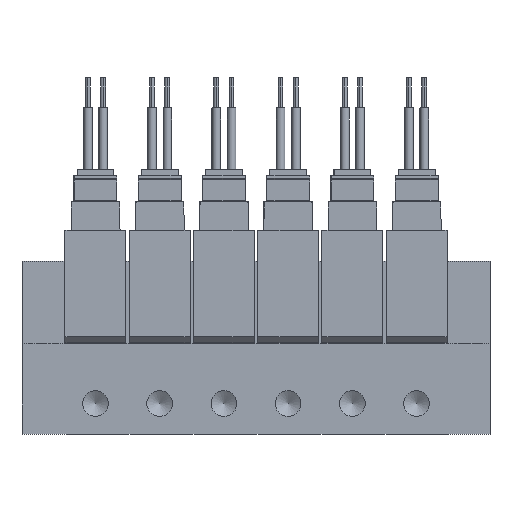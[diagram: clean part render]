
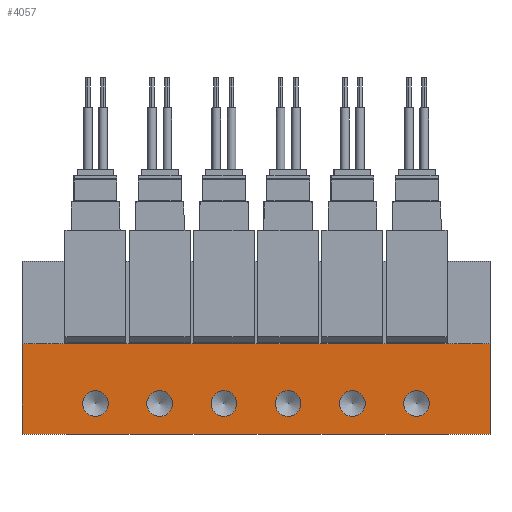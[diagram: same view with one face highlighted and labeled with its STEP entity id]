
A CAD part, front view. The second image highlights one B-rep face of the part: STEP entity #4057.
In plain terms, the highlighted planar face has unit normal (0, -1, 0).
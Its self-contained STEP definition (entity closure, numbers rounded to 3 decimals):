
#4057=ADVANCED_FACE('',(#6612,#6613,#6614,#6615,#6616,#6617,#6618),#6619,.F.);
#6612=FACE_BOUND('',#11838,.T.);
#6613=FACE_BOUND('',#11839,.T.);
#6614=FACE_BOUND('',#11840,.T.);
#6615=FACE_BOUND('',#11841,.T.);
#6616=FACE_BOUND('',#11842,.T.);
#6617=FACE_BOUND('',#11843,.T.);
#6618=FACE_OUTER_BOUND('',#11844,.T.);
#6619=PLANE('',#11845);
#11838=EDGE_LOOP('',(#18467));
#11839=EDGE_LOOP('',(#18468));
#11840=EDGE_LOOP('',(#18469));
#11841=EDGE_LOOP('',(#18470));
#11842=EDGE_LOOP('',(#18471));
#11843=EDGE_LOOP('',(#18472));
#11844=EDGE_LOOP('',(#18473,#18474,#18475,#18476));
#11845=AXIS2_PLACEMENT_3D('',#18477,#18478,#18479);
#18467=ORIENTED_EDGE('',*,*,#38430,.F.);
#18468=ORIENTED_EDGE('',*,*,#38431,.F.);
#18469=ORIENTED_EDGE('',*,*,#38432,.F.);
#18470=ORIENTED_EDGE('',*,*,#38433,.F.);
#18471=ORIENTED_EDGE('',*,*,#38434,.F.);
#18472=ORIENTED_EDGE('',*,*,#38435,.F.);
#18473=ORIENTED_EDGE('',*,*,#38425,.F.);
#18474=ORIENTED_EDGE('',*,*,#38436,.F.);
#18475=ORIENTED_EDGE('',*,*,#38392,.T.);
#18476=ORIENTED_EDGE('',*,*,#38429,.T.);
#18477=CARTESIAN_POINT('',(-76.5,0.,14.8));
#18478=DIRECTION('',(0.0,1.0,0.));
#18479=DIRECTION('',(0.0,0.,1.0));
#38392=EDGE_CURVE('',#44910,#44908,#44911,.T.);
#38425=EDGE_CURVE('',#44969,#44971,#44972,.T.);
#38429=EDGE_CURVE('',#44908,#44971,#44978,.T.);
#38430=EDGE_CURVE('',#44979,#44979,#44980,.T.);
#38431=EDGE_CURVE('',#44981,#44981,#44982,.T.);
#38432=EDGE_CURVE('',#44983,#44983,#44984,.T.);
#38433=EDGE_CURVE('',#44985,#44985,#44986,.T.);
#38434=EDGE_CURVE('',#44987,#44987,#44988,.T.);
#38435=EDGE_CURVE('',#44989,#44989,#44990,.T.);
#38436=EDGE_CURVE('',#44910,#44969,#44991,.T.);
#44908=VERTEX_POINT('',#55894);
#44910=VERTEX_POINT('',#55897);
#44911=LINE('',#55898,#55899);
#44969=VERTEX_POINT('',#55972);
#44971=VERTEX_POINT('',#55975);
#44972=LINE('',#55976,#55977);
#44978=LINE('',#55984,#55985);
#44979=VERTEX_POINT('',#55986);
#44980=CIRCLE('',#55987,2.1);
#44981=VERTEX_POINT('',#55988);
#44982=CIRCLE('',#55989,2.1);
#44983=VERTEX_POINT('',#55990);
#44984=CIRCLE('',#55991,2.1);
#44985=VERTEX_POINT('',#55992);
#44986=CIRCLE('',#55993,2.1);
#44987=VERTEX_POINT('',#55994);
#44988=CIRCLE('',#55995,2.1);
#44989=VERTEX_POINT('',#55996);
#44990=CIRCLE('',#55997,2.1);
#44991=LINE('',#55998,#55999);
#55894=CARTESIAN_POINT('',(-76.5,0.0,0.0));
#55897=CARTESIAN_POINT('',(-76.5,0.,14.8));
#55898=CARTESIAN_POINT('',(-76.5,0.,14.8));
#55899=VECTOR('',#71651,1.0);
#55972=CARTESIAN_POINT('',(0.0,0.,14.8));
#55975=CARTESIAN_POINT('',(0.0,0.0,0.0));
#55976=CARTESIAN_POINT('',(0.0,0.,14.8));
#55977=VECTOR('',#71716,1.0);
#55984=CARTESIAN_POINT('',(-76.5,0.0,0.0));
#55985=VECTOR('',#71724,1.0);
#55986=CARTESIAN_POINT('',(-64.5,0.,2.9));
#55987=AXIS2_PLACEMENT_3D('',#71725,#71726,#71727);
#55988=CARTESIAN_POINT('',(-54.0,0.,2.9));
#55989=AXIS2_PLACEMENT_3D('',#71728,#71729,#71730);
#55990=CARTESIAN_POINT('',(-43.5,0.,2.9));
#55991=AXIS2_PLACEMENT_3D('',#71731,#71732,#71733);
#55992=CARTESIAN_POINT('',(-33.0,0.,2.9));
#55993=AXIS2_PLACEMENT_3D('',#71734,#71735,#71736);
#55994=CARTESIAN_POINT('',(-22.5,0.,2.9));
#55995=AXIS2_PLACEMENT_3D('',#71737,#71738,#71739);
#55996=CARTESIAN_POINT('',(-12.0,0.,2.9));
#55997=AXIS2_PLACEMENT_3D('',#71740,#71741,#71742);
#55998=CARTESIAN_POINT('',(-76.5,0.,14.8));
#55999=VECTOR('',#71743,1.0);
#71651=DIRECTION('',(0.0,0.,-1.0));
#71716=DIRECTION('',(0.0,0.,-1.0));
#71724=DIRECTION('',(1.0,0.0,0.0));
#71725=CARTESIAN_POINT('',(-64.5,0.0,5.0));
#71726=DIRECTION('',(0.0,-1.0,0.));
#71727=DIRECTION('',(0.0,0.,-1.0));
#71728=CARTESIAN_POINT('',(-54.0,0.0,5.0));
#71729=DIRECTION('',(0.0,-1.0,0.));
#71730=DIRECTION('',(0.0,0.,-1.0));
#71731=CARTESIAN_POINT('',(-43.5,0.0,5.0));
#71732=DIRECTION('',(0.0,-1.0,0.));
#71733=DIRECTION('',(0.0,0.,-1.0));
#71734=CARTESIAN_POINT('',(-33.0,0.0,5.0));
#71735=DIRECTION('',(0.0,-1.0,0.));
#71736=DIRECTION('',(0.0,0.,-1.0));
#71737=CARTESIAN_POINT('',(-22.5,0.0,5.0));
#71738=DIRECTION('',(0.0,-1.0,0.));
#71739=DIRECTION('',(0.0,0.,-1.0));
#71740=CARTESIAN_POINT('',(-12.0,0.0,5.0));
#71741=DIRECTION('',(0.0,-1.0,0.));
#71742=DIRECTION('',(0.0,0.,-1.0));
#71743=DIRECTION('',(1.0,0.0,0.0));
